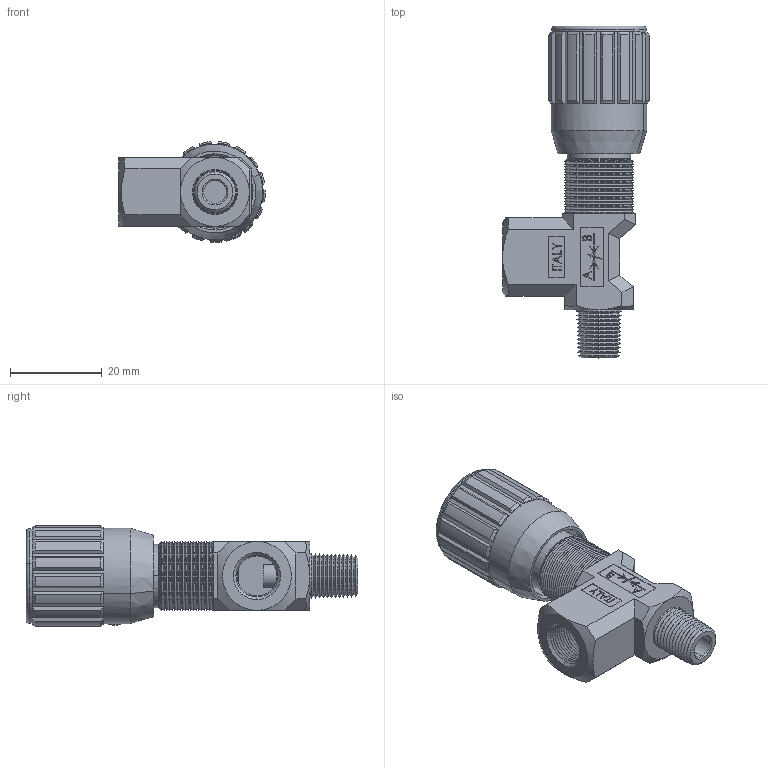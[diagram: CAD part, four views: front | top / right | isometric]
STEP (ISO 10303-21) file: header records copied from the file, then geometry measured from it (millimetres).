
FILE_DESCRIPTION (( 'STEP AP214' ), '1' );
FILE_NAME ('252-2-18 VOLANTINO M-F.STEP', '2015-05-15T15:37:11', ( '' ), ( '' ), 'SwSTEP 2.0', 'SolidWorks 2014', '' );
FILE_SCHEMA (( 'AUTOMOTIVE_DESIGN' ));
Length unit declared in the file: millimetre
Products named in the file (1): 252-2-18 VOLANTINO M-F
Bounding box: 32 x 72.3 x 21.97 mm (x, y, z)
Surface area: 7660.9 mm2 (no closed solid volume)
Topology: 0 solids, 24 shells, 555 faces, 1856 edges, 1275 vertices
Faces by surface type: plane 240, cone 208, cylinder 61, bspline 44, torus 2
Entity records: 29333 total; most frequent: CARTESIAN_POINT 7563, DIRECTION 3099, ORIENTED_EDGE 3051, EDGE_CURVE 1856, VERTEX_POINT 1275, VECTOR 1189, LINE 1189, AXIS2_PLACEMENT_3D 955
